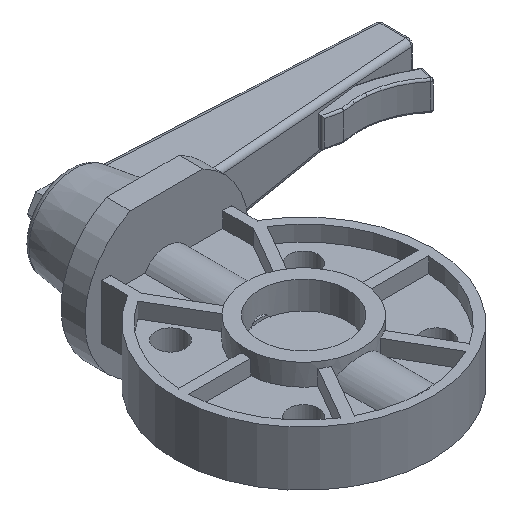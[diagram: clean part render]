
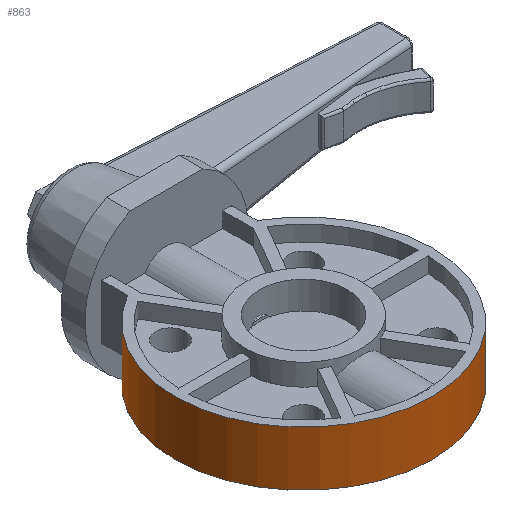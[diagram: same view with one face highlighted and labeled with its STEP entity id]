
A CAD part, isometric view. The second image highlights one B-rep face of the part: STEP entity #863.
In plain terms, the highlighted cylindrical face has radius 82.55 mm (diameter 165.1 mm), a partial arc.
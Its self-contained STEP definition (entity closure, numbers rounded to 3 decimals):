
#167 = VERTEX_POINT ( 'NONE', #2120 ) ;
#181 = DIRECTION ( 'NONE',  ( 0., 0., 1. ) ) ;
#236 = EDGE_CURVE ( 'NONE', #167, #6966, #6530, .T. ) ;
#337 = DIRECTION ( 'NONE',  ( -1., 0., 0. ) ) ;
#716 = ORIENTED_EDGE ( 'NONE', *, *, #5971, .F. ) ;
#863 = ADVANCED_FACE ( 'NONE', ( #8206 ), #6965, .T. ) ;
#884 = DIRECTION ( 'NONE',  ( 1., 0., 0. ) ) ;
#1446 = AXIS2_PLACEMENT_3D ( 'NONE', #6918, #2184, #337 ) ;
#1478 = ORIENTED_EDGE ( 'NONE', *, *, #6650, .T. ) ;
#1964 = DIRECTION ( 'NONE',  ( 1., 0., 0. ) ) ;
#2120 = CARTESIAN_POINT ( 'NONE',  ( -41.529, 71.343, -17.526 ) ) ;
#2184 = DIRECTION ( 'NONE',  ( 0., 0., -1. ) ) ;
#2288 = CIRCLE ( 'NONE', #3929, 82.55 ) ;
#2366 = ORIENTED_EDGE ( 'NONE', *, *, #236, .T. ) ;
#2399 = VERTEX_POINT ( 'NONE', #8075 ) ;
#2491 = ORIENTED_EDGE ( 'NONE', *, *, #4341, .F. ) ;
#2543 = CARTESIAN_POINT ( 'NONE',  ( 41.529, 71.343, -17.526 ) ) ;
#3174 = DIRECTION ( 'NONE',  ( 0., 0., 1. ) ) ;
#3388 = CARTESIAN_POINT ( 'NONE',  ( -41.529, 71.343, -102.215 ) ) ;
#3712 = VECTOR ( 'NONE', #4789, 1000. ) ;
#3929 = AXIS2_PLACEMENT_3D ( 'NONE', #4547, #3174, #1964 ) ;
#4341 = EDGE_CURVE ( 'NONE', #6401, #2399, #2288, .T. ) ;
#4547 = CARTESIAN_POINT ( 'NONE',  ( 0., 0., 17.526 ) ) ;
#4565 = VECTOR ( 'NONE', #5999, 1000. ) ;
#4602 = AXIS2_PLACEMENT_3D ( 'NONE', #6763, #181, #884 ) ;
#4789 = DIRECTION ( 'NONE',  ( 0., 0., 1. ) ) ;
#4829 = EDGE_LOOP ( 'NONE', ( #716, #2366, #1478, #2491 ) ) ;
#5971 = EDGE_CURVE ( 'NONE', #167, #6401, #8127, .T. ) ;
#5999 = DIRECTION ( 'NONE',  ( 0., 0., 1. ) ) ;
#6401 = VERTEX_POINT ( 'NONE', #6822 ) ;
#6530 = CIRCLE ( 'NONE', #4602, 82.55 ) ;
#6650 = EDGE_CURVE ( 'NONE', #6966, #2399, #7415, .T. ) ;
#6746 = CARTESIAN_POINT ( 'NONE',  ( 41.529, 71.343, -102.215 ) ) ;
#6763 = CARTESIAN_POINT ( 'NONE',  ( 0., 0., -17.526 ) ) ;
#6822 = CARTESIAN_POINT ( 'NONE',  ( -41.529, 71.343, 17.526 ) ) ;
#6918 = CARTESIAN_POINT ( 'NONE',  ( 0., 0., 17.526 ) ) ;
#6965 = CYLINDRICAL_SURFACE ( 'NONE', #1446, 82.55 ) ;
#6966 = VERTEX_POINT ( 'NONE', #2543 ) ;
#7415 = LINE ( 'NONE', #6746, #4565 ) ;
#8075 = CARTESIAN_POINT ( 'NONE',  ( 41.529, 71.343, 17.526 ) ) ;
#8127 = LINE ( 'NONE', #3388, #3712 ) ;
#8206 = FACE_OUTER_BOUND ( 'NONE', #4829, .T. ) ;
